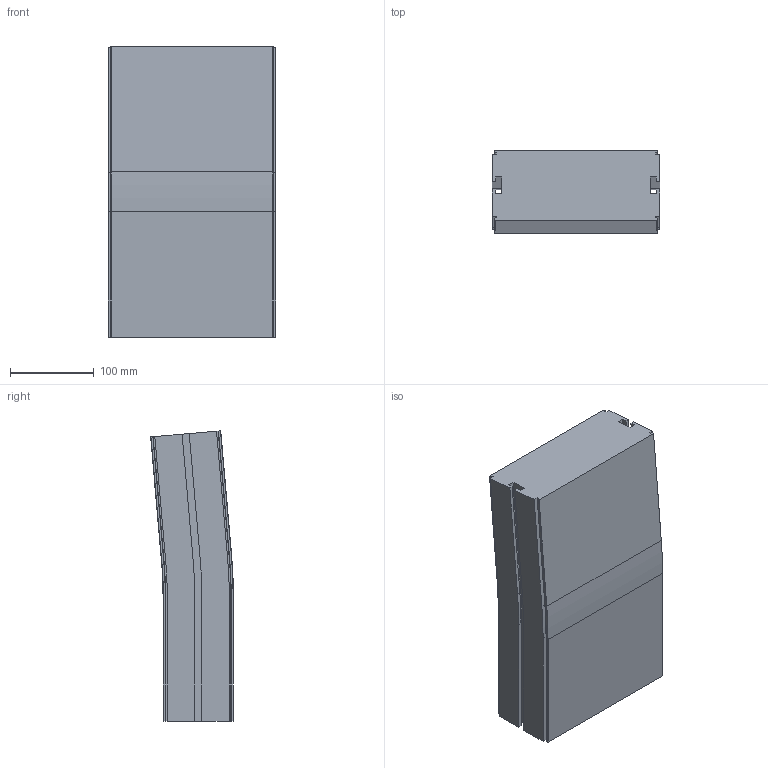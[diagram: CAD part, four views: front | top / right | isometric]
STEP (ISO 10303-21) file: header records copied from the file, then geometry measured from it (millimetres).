
FILE_DESCRIPTION (( 'STEP AP214' ), '1' );
FILE_NAME ('CS SL Verticaalbocht.200 5°.STEP', '2017-02-08T07:37:32', ( '' ), ( '' ), 'SwSTEP 2.0', 'SolidWorks 2016', '' );
FILE_SCHEMA (( 'AUTOMOTIVE_DESIGN' ));
Length unit declared in the file: millimetre
Products named in the file (1): CS SL Verticaalbocht.200 5°
Bounding box: 200 x 98.82 x 346.67 mm (x, y, z)
Volume: 5623430.7 mm3; surface area: 264324.2 mm2
Topology: 1 solids, 1 shells, 98 faces, 272 edges, 176 vertices
Faces by surface type: plane 72, cylinder 18, cone 8
Entity records: 3126 total; most frequent: CARTESIAN_POINT 547, ORIENTED_EDGE 544, DIRECTION 514, EDGE_CURVE 272, VECTOR 228, LINE 228, VERTEX_POINT 176, AXIS2_PLACEMENT_3D 143
